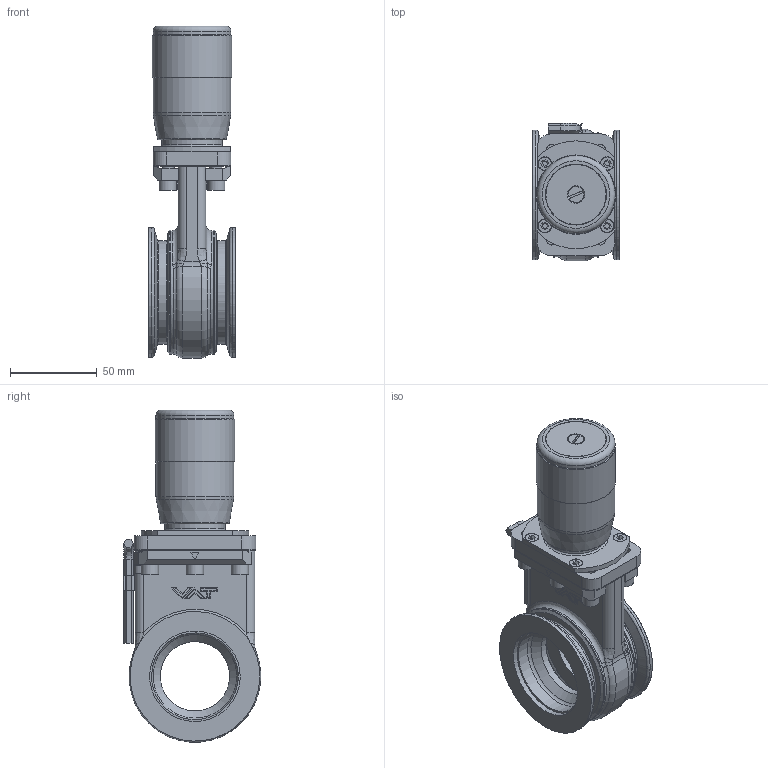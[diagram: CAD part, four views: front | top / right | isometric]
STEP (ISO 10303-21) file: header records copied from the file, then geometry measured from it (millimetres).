
FILE_DESCRIPTION( ( 'Unknown' ), '1' );
FILE_NAME( 'X:/Daten ( aktueller Bestand )/Projekte und Zeichnungen/Solid Edge/STP-Dateien/Schieberventile KF, handbetätigt,el.pneu/3057.stp', 'Unknown', ( 'Unknown' ), ( 'Unknown' ), 'PSStep 14.0', 'Unknown', ' ' );
FILE_SCHEMA( ( 'AUTOMOTIVE_DESIGN { 1 0 10303 214 1 1 1 1 }' ) );
Length unit declared in the file: millimetre
Products named in the file (16): 66272-r1.6; 63172-01_0; 69852-01_0; 83436-01.1; Assem1; 65209-01.2_0; 73280-01_1.1_0; 69968-01.1_0; 228772.1_0; 63152-01.4_0; 66228-01.3_0; 63194-01.2_0; n-6013-444.1_0; 66230-01.2_0; n-6011-473.1_0
Assembly tree (25 placements, depth 3):
  Assem1
    65209-01.2_0
    73280-01_1.1_0
    69968-01.1_0
    228772.1_0  x6
    63152-01.4_0
    66228-01.3_0
    63194-01.2_0
    n-6013-444.1_0  x4
    66230-01.2_0
    n-6011-473.1_0
    83436-01.1  x2
    66272-r1.6
      63172-01_0
      69852-01_0
      83436-01.1
      66272-r1.6
Bounding box: 50 x 79.41 x 191.69 mm (x, y, z)
Volume: 217003.6 mm3; surface area: 133779.2 mm2
Topology: 24 solids, 24 shells, 707 faces, 1720 edges, 1100 vertices
Faces by surface type: plane 385, cylinder 172, cone 55, bspline 50, torus 43, extrusion 2
Full cylindrical faces by diameter (mm): 3.4 x2, 4 x8, 4.25 x4, 5.25 x1, 5.95 x2, 6 x12, 6.2 x10, 6.95 x2, 7.5 x4, 9.85 x1, 10 x6, 20.75 x1, 24.7 x2, 33.075 x1, 34.75 x1, 35.1 x1, 35.25 x2, 39.1 x1, 40.1 x3, 45 x2, 45.8 x1, 50.1 x3, 52.3 x3, 59.8 x3, 66.65 x3, 67.9 x3, 68.1 x2, 71.45 x2, 71.8 x3, 74.905 x3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
Entity records: 28469 total; most frequent: CARTESIAN_POINT 11053, DIRECTION 2565, ORIENTED_EDGE 2534, EDGE_CURVE 1267, AXIS2_PLACEMENT_3D 908, VERTEX_POINT 876, EDGE_LOOP 750, VECTOR 749
